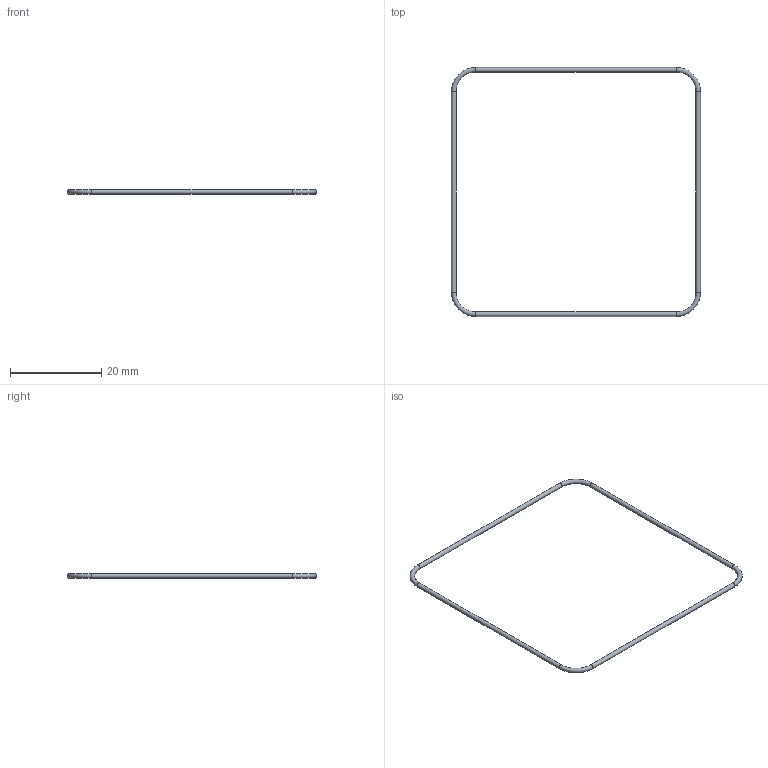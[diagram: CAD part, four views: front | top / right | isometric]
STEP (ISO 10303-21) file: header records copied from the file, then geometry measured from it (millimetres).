
FILE_DESCRIPTION(('FreeCAD Model'),'2;1');
FILE_NAME('Open CASCADE Shape Model','2026-10-30T14:44:42',('FreeCAD'),( 'FreeCAD'),'Open CASCADE STEP processor 7.8','FreeCAD','Unknown');
FILE_SCHEMA(('AUTOMOTIVE_DESIGN { 1 0 10303 214 1 1 1 1 }'));
Length unit declared in the file: millimetre
Products named in the file (1): Open CASCADE STEP translator 7.8 11
Bounding box: 54.6 x 54.6 x 1 mm (x, y, z)
Volume: 161.9 mm3; surface area: 647.7 mm2
Topology: 1 solids, 1 shells, 8 faces, 16 edges, 8 vertices
Faces by surface type: cylinder 4, torus 4
Full cylindrical faces by diameter (mm): 1 x4
Entity records: 222 total; most frequent: DIRECTION 46, CARTESIAN_POINT 33, ORIENTED_EDGE 32, AXIS2_PLACEMENT_3D 21, EDGE_CURVE 16, CIRCLE 12, ADVANCED_FACE 8, FACE_BOUND 8
